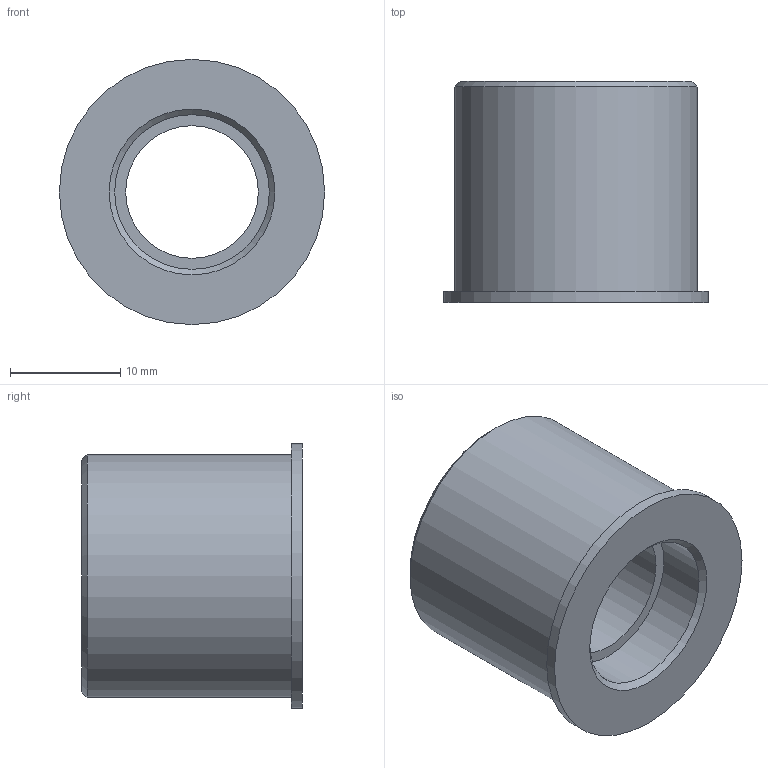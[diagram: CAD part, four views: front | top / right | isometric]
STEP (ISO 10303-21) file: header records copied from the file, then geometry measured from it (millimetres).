
FILE_DESCRIPTION (( 'STEP AP214' ), '1' );
FILE_NAME ('RI50-聆彸蛌粣馱蚾.STEP', '2025-04-01T06:32:11', ( '' ), ( '' ), 'SwSTEP 2.0', 'SolidWorks 2020', '' );
FILE_SCHEMA (( 'AUTOMOTIVE_DESIGN' ));
Length unit declared in the file: millimetre
Products named in the file (1): RI50-聆彸蛌粣馱蚾
Bounding box: 24 x 20 x 24 mm (x, y, z)
Volume: 4898.2 mm3; surface area: 3004.1 mm2
Topology: 1 solids, 1 shells, 21 faces, 43 edges, 27 vertices
Faces by surface type: cylinder 9, cone 7, plane 5
Full cylindrical faces by diameter (mm): 2.05 x4, 12 x1, 14 x2, 22 x1, 24 x1
Entity records: 506 total; most frequent: DIRECTION 86, CARTESIAN_POINT 64, AXIS2_PLACEMENT_3D 43, ORIENTED_EDGE 42, EDGE_LOOP 42, FACE_OUTER_BOUND 30, ADVANCED_FACE 21, EDGE_CURVE 21
